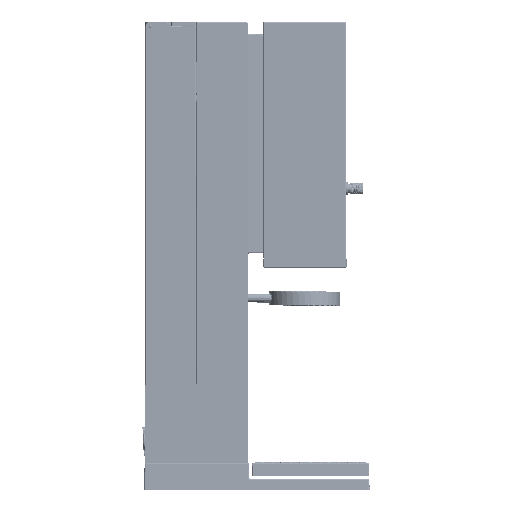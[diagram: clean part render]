
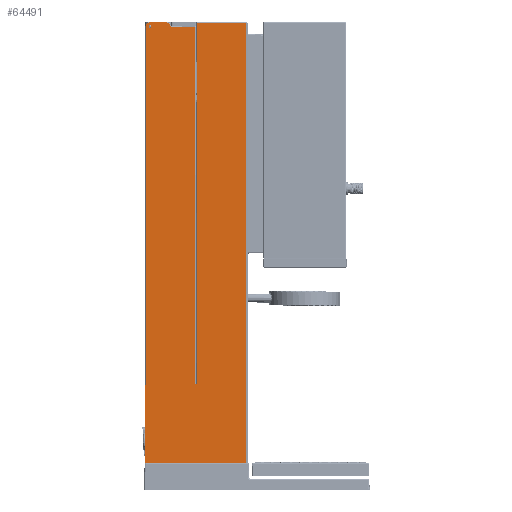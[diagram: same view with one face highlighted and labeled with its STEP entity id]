
A CAD part, left-side view. The second image highlights one B-rep face of the part: STEP entity #64491.
In plain terms, the highlighted planar face has unit normal (-1, 0, 0).
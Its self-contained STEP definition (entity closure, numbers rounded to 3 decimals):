
#34304=TRIMMED_CURVE($,#40692,(#458178),(#458179),.T.,.CARTESIAN.);
#34309=TRIMMED_CURVE($,#40697,(#458349),(#458350),.T.,.CARTESIAN.);
#34310=TRIMMED_CURVE($,#40698,(#458352),(#458353),.T.,.CARTESIAN.);
#34311=TRIMMED_CURVE($,#40699,(#458365),(#458366),.T.,.CARTESIAN.);
#34742=TRIMMED_CURVE($,#41130,(#464197),(#464198),.T.,.CARTESIAN.);
#34751=TRIMMED_CURVE($,#41139,(#464270),(#464271),.T.,.CARTESIAN.);
#40692=CIRCLE('',#362504,1.);
#40697=CIRCLE('',#362509,3.8);
#40698=CIRCLE('',#362510,3.8);
#40699=CIRCLE('',#362511,1.343);
#41130=CIRCLE('',#362942,1.);
#41139=CIRCLE('',#362951,1.343);
#60868=FACE_BOUND('',#102547,.T.);
#64491=ADVANCED_FACE('',(#83363,#60868),#354425,.T.);
#83363=FACE_OUTER_BOUND('',#102546,.T.);
#102546=EDGE_LOOP('',(#128723,#128724,#128725,#128726,#128727,#128728,#128729,
#128730,#128731,#128732,#128733,#128734,#128735,#128736,#128737,#128738));
#102547=EDGE_LOOP('',(#128739,#128740));
#128723=ORIENTED_EDGE('',*,*,#226790,.F.);
#128724=ORIENTED_EDGE('',*,*,#226798,.F.);
#128725=ORIENTED_EDGE('',*,*,#226829,.T.);
#128726=ORIENTED_EDGE('',*,*,#226828,.T.);
#128727=ORIENTED_EDGE('',*,*,#226827,.T.);
#128728=ORIENTED_EDGE('',*,*,#226916,.T.);
#128729=ORIENTED_EDGE('',*,*,#226911,.T.);
#128730=ORIENTED_EDGE('',*,*,#226826,.T.);
#128731=ORIENTED_EDGE('',*,*,#226825,.T.);
#128732=ORIENTED_EDGE('',*,*,#226893,.T.);
#128733=ORIENTED_EDGE('',*,*,#226824,.T.);
#128734=ORIENTED_EDGE('',*,*,#228715,.T.);
#128735=ORIENTED_EDGE('',*,*,#226823,.T.);
#128736=ORIENTED_EDGE('',*,*,#228709,.T.);
#128737=ORIENTED_EDGE('',*,*,#226822,.T.);
#128738=ORIENTED_EDGE('',*,*,#226759,.F.);
#128739=ORIENTED_EDGE('',*,*,#228730,.T.);
#128740=ORIENTED_EDGE('',*,*,#226831,.T.);
#226759=EDGE_CURVE('',#325660,#325662,#279382,.T.);
#226790=EDGE_CURVE('',#325692,#325660,#34304,.T.);
#226798=EDGE_CURVE('',#325698,#325692,#279415,.T.);
#226822=EDGE_CURVE('',#325726,#325662,#279439,.T.);
#226823=EDGE_CURVE('',#325520,#325521,#279440,.T.);
#226824=EDGE_CURVE('',#325728,#325727,#34309,.T.);
#226825=EDGE_CURVE('',#325730,#325729,#34310,.T.);
#226826=EDGE_CURVE('',#325731,#325730,#279441,.T.);
#226827=EDGE_CURVE('',#325734,#325733,#279442,.T.);
#226828=EDGE_CURVE('',#325735,#325734,#279443,.T.);
#226829=EDGE_CURVE('',#325698,#325735,#279444,.T.);
#226831=EDGE_CURVE('',#325736,#325737,#34311,.T.);
#226893=EDGE_CURVE('',#325729,#325728,#279506,.T.);
#226911=EDGE_CURVE('',#325732,#325731,#279517,.T.);
#226916=EDGE_CURVE('',#325733,#325732,#279521,.T.);
#228709=EDGE_CURVE('',#325521,#325726,#34742,.T.);
#228715=EDGE_CURVE('',#325727,#325520,#280896,.T.);
#228730=EDGE_CURVE('',#325737,#325736,#34751,.T.);
#279382=B_SPLINE_CURVE_WITH_KNOTS('',1,(#458073,#458074),.UNSPECIFIED.,
 .F.,.F.,(2,2),(-0.173,0.),.UNSPECIFIED.);
#279415=B_SPLINE_CURVE_WITH_KNOTS('',1,(#458198,#458199),.UNSPECIFIED.,
 .F.,.F.,(2,2),(-91.019,0.),.UNSPECIFIED.);
#279439=B_SPLINE_CURVE_WITH_KNOTS('',1,(#458344,#458345),.UNSPECIFIED.,
 .F.,.F.,(2,2),(-69.705,0.),.UNSPECIFIED.);
#279440=B_SPLINE_CURVE_WITH_KNOTS('',1,(#458346,#458347),.UNSPECIFIED.,
 .F.,.F.,(2,2),(-0.761,0.),.UNSPECIFIED.);
#279441=B_SPLINE_CURVE_WITH_KNOTS('',1,(#458354,#458355),.UNSPECIFIED.,
 .F.,.F.,(2,2),(-22.205,0.),.UNSPECIFIED.);
#279442=B_SPLINE_CURVE_WITH_KNOTS('',1,(#458356,#458357),.UNSPECIFIED.,
 .F.,.F.,(2,2),(-325.795,0.),.UNSPECIFIED.);
#279443=B_SPLINE_CURVE_WITH_KNOTS('',1,(#458358,#458359),.UNSPECIFIED.,
 .F.,.F.,(2,2),(-44.795,0.),.UNSPECIFIED.);
#279444=B_SPLINE_CURVE_WITH_KNOTS('',1,(#458360,#458361),.UNSPECIFIED.,
 .F.,.F.,(2,2),(-397.293,0.),.UNSPECIFIED.);
#279506=B_SPLINE_CURVE_WITH_KNOTS('',1,(#458558,#458559),.UNSPECIFIED.,
 .F.,.F.,(2,2),(0.,15.),.UNSPECIFIED.);
#279517=B_SPLINE_CURVE_WITH_KNOTS('',1,(#458601,#458602),.UNSPECIFIED.,
 .F.,.F.,(2,2),(0.,322.825),.UNSPECIFIED.);
#279521=B_SPLINE_CURVE_WITH_KNOTS('',1,(#458612,#458613),.UNSPECIFIED.,
 .F.,.F.,(2,2),(0.,1.501),.UNSPECIFIED.);
#280896=B_SPLINE_CURVE_WITH_KNOTS('',1,(#464215,#464216),.UNSPECIFIED.,
 .F.,.F.,(2,2),(0.,323.807),.UNSPECIFIED.);
#325520=VERTEX_POINT('',#455372);
#325521=VERTEX_POINT('',#455373);
#325660=VERTEX_POINT('',#455512);
#325662=VERTEX_POINT('',#455514);
#325692=VERTEX_POINT('',#455544);
#325698=VERTEX_POINT('',#455550);
#325726=VERTEX_POINT('',#455578);
#325727=VERTEX_POINT('',#455579);
#325728=VERTEX_POINT('',#455580);
#325729=VERTEX_POINT('',#455581);
#325730=VERTEX_POINT('',#455582);
#325731=VERTEX_POINT('',#455583);
#325732=VERTEX_POINT('',#455584);
#325733=VERTEX_POINT('',#455585);
#325734=VERTEX_POINT('',#455586);
#325735=VERTEX_POINT('',#455587);
#325736=VERTEX_POINT('',#455588);
#325737=VERTEX_POINT('',#455589);
#354425=PLANE('',#361828);
#361828=AXIS2_PLACEMENT_3D('',#449201,#376209,$);
#362504=AXIS2_PLACEMENT_3D($,#458177,#376923,#376924);
#362509=AXIS2_PLACEMENT_3D($,#458348,#376933,#376934);
#362510=AXIS2_PLACEMENT_3D($,#458351,#376935,#376936);
#362511=AXIS2_PLACEMENT_3D($,#458364,#376937,#376938);
#362942=AXIS2_PLACEMENT_3D($,#464196,#377799,#377800);
#362951=AXIS2_PLACEMENT_3D($,#464269,#377817,#377818);
#376209=DIRECTION('',(-1.,0.,0.));
#376923=DIRECTION('',(-1.,0.,0.));
#376924=DIRECTION('',(0.,0.,1.));
#376933=DIRECTION('',(-1.,0.,0.));
#376934=DIRECTION('',(0.,0.,1.));
#376935=DIRECTION('',(-1.,0.,0.));
#376936=DIRECTION('',(0.,-0.999,-0.053));
#376937=DIRECTION('',(1.,0.,0.));
#376938=DIRECTION('',(0.,0.,1.));
#377799=DIRECTION('',(-1.,0.,0.));
#377800=DIRECTION('',(0.,0.041,0.999));
#377817=DIRECTION('',(1.,0.,0.));
#377818=DIRECTION('',(0.,0.,-1.));
#449201=CARTESIAN_POINT('',(-82.586,-157.165,-21.94));
#455372=CARTESIAN_POINT('',(-82.586,-166.529,88.621));
#455373=CARTESIAN_POINT('',(-82.586,-167.29,88.635));
#455512=CARTESIAN_POINT('',(-82.586,-166.506,17.93));
#455514=CARTESIAN_POINT('',(-82.586,-166.333,17.93));
#455544=CARTESIAN_POINT('',(-82.586,-166.609,17.935));
#455550=CARTESIAN_POINT('',(-82.586,-257.628,17.935));
#455578=CARTESIAN_POINT('',(-82.586,-166.33,87.635));
#455579=CARTESIAN_POINT('',(-82.586,-166.523,412.429));
#455580=CARTESIAN_POINT('',(-82.586,-170.323,416.23));
#455581=CARTESIAN_POINT('',(-82.586,-185.323,416.23));
#455582=CARTESIAN_POINT('',(-82.586,-189.117,412.23));
#455583=CARTESIAN_POINT('',(-82.586,-211.323,412.23));
#455584=CARTESIAN_POINT('',(-82.586,-211.329,89.405));
#455585=CARTESIAN_POINT('',(-82.586,-212.83,89.431));
#455586=CARTESIAN_POINT('',(-82.586,-212.818,415.226));
#455587=CARTESIAN_POINT('',(-82.586,-257.612,415.228));
#455588=CARTESIAN_POINT('',(-82.586,-170.323,413.772));
#455589=CARTESIAN_POINT('',(-82.586,-170.323,411.087));
#458073=CARTESIAN_POINT('',(-82.586,-166.506,17.93));
#458074=CARTESIAN_POINT('',(-82.586,-166.333,17.93));
#458177=CARTESIAN_POINT('',(-82.586,-166.609,16.935));
#458178=CARTESIAN_POINT('',(-82.586,-166.609,17.935));
#458179=CARTESIAN_POINT('',(-82.586,-166.506,17.93));
#458198=CARTESIAN_POINT('',(-82.586,-257.628,17.935));
#458199=CARTESIAN_POINT('',(-82.586,-166.609,17.935));
#458344=CARTESIAN_POINT('',(-82.586,-166.33,87.635));
#458345=CARTESIAN_POINT('',(-82.586,-166.333,17.93));
#458346=CARTESIAN_POINT('',(-82.586,-166.529,88.621));
#458347=CARTESIAN_POINT('',(-82.586,-167.29,88.635));
#458348=CARTESIAN_POINT('',(-82.586,-170.323,412.429));
#458349=CARTESIAN_POINT('',(-82.586,-170.323,416.23));
#458350=CARTESIAN_POINT('',(-82.586,-166.523,412.429));
#458351=CARTESIAN_POINT('',(-82.586,-185.323,412.43));
#458352=CARTESIAN_POINT('',(-82.586,-189.117,412.23));
#458353=CARTESIAN_POINT('',(-82.586,-185.323,416.23));
#458354=CARTESIAN_POINT('',(-82.586,-211.323,412.23));
#458355=CARTESIAN_POINT('',(-82.586,-189.117,412.23));
#458356=CARTESIAN_POINT('',(-82.586,-212.818,415.226));
#458357=CARTESIAN_POINT('',(-82.586,-212.83,89.431));
#458358=CARTESIAN_POINT('',(-82.586,-257.612,415.228));
#458359=CARTESIAN_POINT('',(-82.586,-212.818,415.226));
#458360=CARTESIAN_POINT('',(-82.586,-257.628,17.935));
#458361=CARTESIAN_POINT('',(-82.586,-257.612,415.228));
#458364=CARTESIAN_POINT('',(-82.586,-170.323,412.429));
#458365=CARTESIAN_POINT('',(-82.586,-170.323,413.772));
#458366=CARTESIAN_POINT('',(-82.586,-170.323,411.087));
#458558=CARTESIAN_POINT('',(-82.586,-185.323,416.23));
#458559=CARTESIAN_POINT('',(-82.586,-170.323,416.23));
#458601=CARTESIAN_POINT('',(-82.586,-211.329,89.405));
#458602=CARTESIAN_POINT('',(-82.586,-211.323,412.23));
#458612=CARTESIAN_POINT('',(-82.586,-212.83,89.431));
#458613=CARTESIAN_POINT('',(-82.586,-211.329,89.405));
#464196=CARTESIAN_POINT('',(-82.586,-167.33,87.635));
#464197=CARTESIAN_POINT('',(-82.586,-167.29,88.635));
#464198=CARTESIAN_POINT('',(-82.586,-166.33,87.635));
#464215=CARTESIAN_POINT('',(-82.586,-166.523,412.429));
#464216=CARTESIAN_POINT('',(-82.586,-166.529,88.621));
#464269=CARTESIAN_POINT('',(-82.586,-170.323,412.429));
#464270=CARTESIAN_POINT('',(-82.586,-170.323,411.087));
#464271=CARTESIAN_POINT('',(-82.586,-170.323,413.772));
